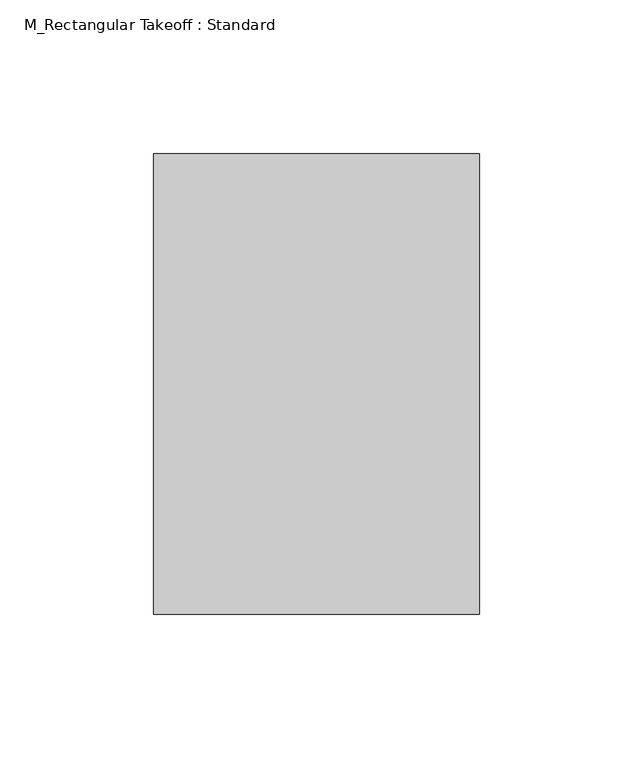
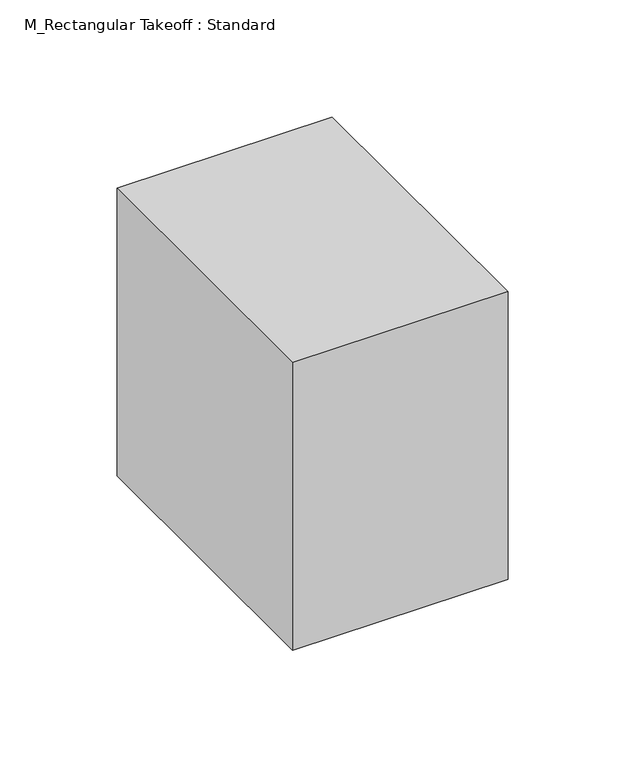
"""IFC4 building model written with IfcOpenShell, lengths in millimetres: duct fitting geometry, M_Rectangular Takeoff : Standard."""

import ifcopenshell
import ifcopenshell.guid

model = None  # the IFC model being written
_history = None  # IfcOwnerHistory: only IFC2X3 demands one
_inside = {}  # id of a spatial element -> (the spatial element, [elements in it])
_under = {}  # id of a project, library or spatial element -> (it, [spatial elements below it])
_declared = {}  # id of a project -> (the project, [libraries it declares])
_typed = {}  # id of a type object -> (the type object, [elements of that type])
_made_of = {}  # id of a material, layer set ... -> (it, [elements and type objects made of it])


def new_model(schema):
    """Start an empty IFC model of exactly this schema.

    Asked for "IFC4X3", IfcOpenShell would pick the latest addendum, in which some entities
    have other attributes; the version numbers below select the first issue.
    IFC2X3 requires an IfcOwnerHistory on every rooted entity: one is made here for all.
    """
    global model, _history
    if schema == "IFC4X3":
        model = ifcopenshell.file(schema_version=(4, 3, 0, 0))
    else:
        model = ifcopenshell.file(schema=schema)
    _inside.clear()
    _under.clear()
    _declared.clear()
    _typed.clear()
    _made_of.clear()
    _history = None
    if model.schema == "IFC2X3":
        org = make("IfcOrganization", Name="unknown")
        user = make(
            "IfcPersonAndOrganization",
            ThePerson=make("IfcPerson", FamilyName="unknown"),
            TheOrganization=org,
        )
        app = make(
            "IfcApplication",
            ApplicationDeveloper=org,
            Version="unknown",
            ApplicationFullName="unknown",
            ApplicationIdentifier="unknown",
        )
        _history = make(
            "IfcOwnerHistory",
            OwningUser=user,
            OwningApplication=app,
            ChangeAction="ADDED",
            CreationDate=0,
        )
    return model


def make(cls, **values):
    """One entity of the class cls with the attributes given. An attribute that is None is left unset."""
    return model.create_entity(
        cls, **{name: value for name, value in values.items() if value is not None}
    )


def rooted(cls, **values):
    """An entity with a GlobalId (a new one), such as an element, a storey or a relation."""
    return make(cls, GlobalId=ifcopenshell.guid.new(), OwnerHistory=_history, **values)


def si_unit(unit_type, name, prefix=None):
    """IfcSIUnit, for example si_unit("LENGTHUNIT", "METRE", prefix="MILLI")."""
    return make("IfcSIUnit", UnitType=unit_type, Prefix=prefix, Name=name)


def assignment(units):
    """IfcUnitAssignment: the units of a project."""
    return None if units is None else make("IfcUnitAssignment", Units=units)


def point(xyz):
    """IfcCartesianPoint."""
    return None if xyz is None else make("IfcCartesianPoint", Coordinates=xyz)


def direction(xyz):
    """IfcDirection."""
    return None if xyz is None else make("IfcDirection", DirectionRatios=xyz)


def frame(location, z_axis=None, x_axis=None):
    """IfcAxis2Placement3D, a coordinate frame: its origin and axes. An axis left out is left unset."""
    return make(
        "IfcAxis2Placement3D",
        Location=point(location),
        Axis=direction(z_axis),
        RefDirection=direction(x_axis),
    )


def origin():
    """The frame at (0, 0, 0) with its axes left unset."""
    return frame((0.0, 0.0, 0.0))


def place(relative_to, where):
    """IfcLocalPlacement: puts the frame where relative to a parent placement (None: the world)."""
    return make(
        "IfcLocalPlacement", PlacementRelTo=relative_to, RelativePlacement=where
    )


def context(
    kind, dimensions, precision=None, world=None, true_north=None, identifier=None
):
    """IfcGeometricRepresentationContext, for example the 3D "Model" context."""
    return make(
        "IfcGeometricRepresentationContext",
        ContextIdentifier=identifier,
        ContextType=kind,
        CoordinateSpaceDimension=dimensions,
        Precision=precision,
        WorldCoordinateSystem=world,
        TrueNorth=true_north,
    )


def project(units=None, contexts=None):
    """IfcProject with its units and contexts."""
    return rooted(
        "IfcProject",
        Name="project",
        RepresentationContexts=contexts,
        UnitsInContext=assignment(units),
    )


def spatial(cls, under=None, at=None, **own):
    """A site, building, storey or space (cls), placed at a placement, below another one or the project."""
    s = rooted(cls, ObjectPlacement=at, **own)
    if under is not None:
        _under.setdefault(under.id(), (under, []))[1].append(s)
    return s


def polyline(points):
    """IfcPolyline through the points."""
    return make("IfcPolyline", Points=[point(p) for p in points])


def outline(outer, holes=None, kind="AREA"):
    """IfcArbitraryClosedProfileDef: a profile drawn as a closed curve; with holes, ...WithVoids."""
    if holes is None:
        return make("IfcArbitraryClosedProfileDef", ProfileType=kind, OuterCurve=outer)
    return make(
        "IfcArbitraryProfileDefWithVoids",
        ProfileType=kind,
        OuterCurve=outer,
        InnerCurves=holes,
    )


def extrude(swept, where, along, depth):
    """IfcExtrudedAreaSolid: the profile swept, set in the frame where, extruded along a direction by depth."""
    return make(
        "IfcExtrudedAreaSolid",
        SweptArea=swept,
        Position=where,
        ExtrudedDirection=direction(along),
        Depth=depth,
    )


def shape(context_of_items, identifier, shape_type, items):
    """IfcShapeRepresentation: the items that make up one representation, for example the "Body"."""
    return make(
        "IfcShapeRepresentation",
        ContextOfItems=context_of_items,
        RepresentationIdentifier=identifier,
        RepresentationType=shape_type,
        Items=items,
    )


def source(mapping_origin, context_of_items, identifier, shape_type, items):
    """IfcRepresentationMap: a shape defined once, which mapped items show again and again."""
    return make(
        "IfcRepresentationMap",
        MappingOrigin=mapping_origin,
        MappedRepresentation=shape(context_of_items, identifier, shape_type, items),
    )


def transform(
    local_origin,
    x_axis=None,
    y_axis=None,
    z_axis=None,
    scale=None,
    scale2=None,
    scale3=None,
    uniform=True,
):
    """IfcCartesianTransformationOperator3D, or its non-uniform kind. x_axis, y_axis, z_axis: its Axis1, 2, 3."""
    if uniform:
        return make(
            "IfcCartesianTransformationOperator3D",
            Axis1=direction(x_axis),
            Axis2=direction(y_axis),
            LocalOrigin=point(local_origin),
            Scale=scale,
            Axis3=direction(z_axis),
        )
    return make(
        "IfcCartesianTransformationOperator3DnonUniform",
        Axis1=direction(x_axis),
        Axis2=direction(y_axis),
        LocalOrigin=point(local_origin),
        Scale=scale,
        Axis3=direction(z_axis),
        Scale2=scale2,
        Scale3=scale3,
    )


def mapped(mapping_source, mapping_target):
    """IfcMappedItem: shows the shape of a source again, moved by a transform."""
    return make(
        "IfcMappedItem", MappingSource=mapping_source, MappingTarget=mapping_target
    )


def made_of(thing, what):
    """Note that an element or type object is made of a material, layer set ...; save() writes the relation."""
    if what is not None:
        _made_of.setdefault(what.id(), (what, []))[1].append(thing)
    return thing


def element(
    cls,
    number,
    at=None,
    inside=None,
    cuts=None,
    type_object=None,
    material=None,
    context=None,
    identifier="Body",
    shape_type=None,
    held_by="IfcProductDefinitionShape",
    body=None,
    shapes=None,
    **own,
):
    """One element of the class cls, such as IfcWall. Its Tag is "e" and its number.

    at: its placement. inside: the storey or other place that contains it. cuts: it is an
    opening in that element (IfcRelVoidsElement). A single representation is given by context,
    identifier, shape_type and body (its items); several are given by shapes. held_by: the class
    of the entity that holds the representations. save() writes the other relations.
    """
    e = rooted(cls, Tag="e%d" % number, ObjectPlacement=at, **own)
    if body is not None:
        shapes = [shape(context, identifier, shape_type, body)]
    if shapes is not None:
        e.Representation = make(held_by, Representations=shapes)
    if inside is not None:
        _inside.setdefault(inside.id(), (inside, []))[1].append(e)
    if cuts is not None:
        rooted(
            "IfcRelVoidsElement", RelatingBuildingElement=cuts, RelatedOpeningElement=e
        )
    if type_object is not None:
        _typed.setdefault(type_object.id(), (type_object, []))[1].append(e)
    return made_of(e, material)


def aggregate(whole, parts):
    """IfcRelAggregates: a whole, such as a stair, and the parts it consists of."""
    return rooted("IfcRelAggregates", RelatingObject=whole, RelatedObjects=parts)


def save(model, path):
    """Write the relations noted so far, then the file.

    IfcRelAggregates (storeys below a building ...), IfcRelContainedInSpatialStructure (elements
    in a storey), IfcRelDefinesByType, IfcRelAssociatesMaterial and IfcRelDeclares: one each for
    every whole, place, type object, material and project.
    """
    for whole, parts in _under.values():
        aggregate(whole, parts)
    for where, things in _inside.values():
        rooted(
            "IfcRelContainedInSpatialStructure",
            RelatedElements=things,
            RelatingStructure=where,
        )
    for kind, things in _typed.values():
        rooted("IfcRelDefinesByType", RelatedObjects=things, RelatingType=kind)
    for what, things in _made_of.values():
        rooted("IfcRelAssociatesMaterial", RelatedObjects=things, RelatingMaterial=what)
    for by, libraries in _declared.values():
        rooted("IfcRelDeclares", RelatingContext=by, RelatedDefinitions=libraries)
    model.write(path)


def m_rectangular_takeoff_standard_5fad1069(model_context):
    return source(origin(), model_context, "Body", "SweptSolid", [
        extrude(outline(polyline([(-6.1078953, -75.0), (-6.1078953, 75.0), (100.0118953, 75.0), (100.0118953, -75.0), (-6.1078953, -75.0)])), frame((0.0, 0.0, -75.0), z_axis=(0.0, 0.0, 1.0), x_axis=(1.0, 0.0, 0.0)), (0.0, 0.0, 1.0), 150.0),
        extrude(outline(polyline([(-6.1078953, -75.0), (-6.1078953, 75.0), (100.0118953, 75.0), (100.0118953, -75.0), (-6.1078953, -75.0)])), frame((0.0, 0.0, -75.0), z_axis=(0.0, 0.0, 1.0), x_axis=(1.0, 0.0, 0.0)), (0.0, 0.0, 1.0), 150.0),
        extrude(outline(polyline([(-6.1078953, -75.0), (-6.1078953, 75.0), (100.0118953, 75.0), (100.0118953, -75.0), (-6.1078953, -75.0)])), frame((0.0, 0.0, -75.0), z_axis=(0.0, 0.0, 1.0), x_axis=(1.0, 0.0, 0.0)), (0.0, 0.0, 1.0), 150.0),
    ])


if __name__ == "__main__":
    model = new_model("IFC4")
    model_context = context("Model", 3, world=origin())
    ifc_project = project(units=[si_unit("LENGTHUNIT", "METRE", prefix="MILLI")], contexts=[model_context])
    site = spatial("IfcSite", under=ifc_project)
    building = spatial("IfcBuilding", under=site)
    placement = place(None, origin())
    m_rectangular_takeoff_standard_shape = m_rectangular_takeoff_standard_5fad1069(model_context)
    element("IfcDuctFitting", 1, ObjectType="M_Rectangular Takeoff : Standard", at=placement, inside=building, context=model_context, shape_type="MappedRepresentation", body=[
        mapped(m_rectangular_takeoff_standard_shape, transform((0.0, 0.0, 0.0), x_axis=(1.0, 0.0, 0.0), y_axis=(0.0, 1.0, 0.0), z_axis=(0.0, 0.0, 1.0))),
    ])
    save(model, "model.ifc")
